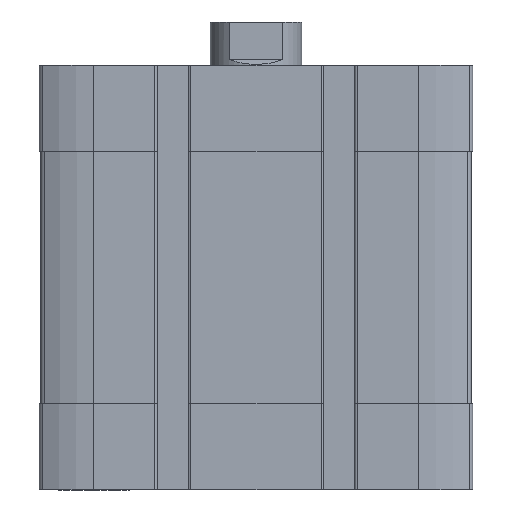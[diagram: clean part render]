
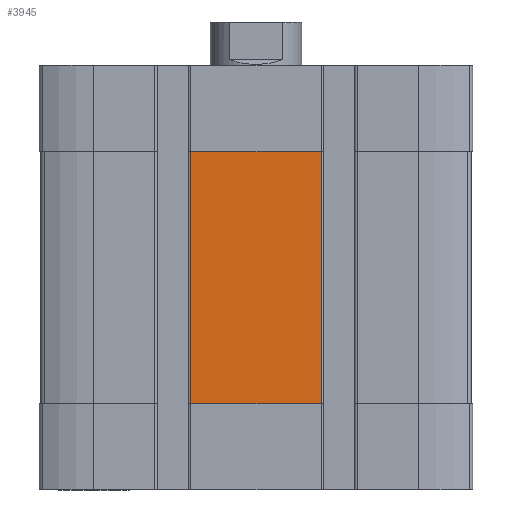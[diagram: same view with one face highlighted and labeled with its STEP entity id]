
A CAD part, front view. The second image highlights one B-rep face of the part: STEP entity #3945.
In plain terms, the highlighted planar face has unit normal (0, -1, 0).
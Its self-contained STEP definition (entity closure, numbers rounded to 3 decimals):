
#307 = ORIENTED_EDGE ( 'NONE', *, *, #11807, .T. ) ;
#697 = DIRECTION ( 'NONE',  ( 0., 0., -1. ) ) ;
#763 = ORIENTED_EDGE ( 'NONE', *, *, #12139, .T. ) ;
#1029 = VECTOR ( 'NONE', #14793, 1000. ) ;
#1366 = CARTESIAN_POINT ( 'NONE',  ( -11.4, -37.5, -59. ) ) ;
#1626 = VECTOR ( 'NONE', #2965, 1000. ) ;
#2327 = VERTEX_POINT ( 'NONE', #11462 ) ;
#2965 = DIRECTION ( 'NONE',  ( 0., 0., -1. ) ) ;
#3183 = LINE ( 'NONE', #4878, #11781 ) ;
#3238 = ORIENTED_EDGE ( 'NONE', *, *, #7067, .T. ) ;
#3261 = PLANE ( 'NONE',  #4406 ) ;
#3945 = ADVANCED_FACE ( 'NONE', ( #4991 ), #3261, .T. ) ;
#4406 = AXIS2_PLACEMENT_3D ( 'NONE', #1366, #11392, #697 ) ;
#4833 = EDGE_CURVE ( 'NONE', #2327, #10361, #13905, .T. ) ;
#4878 = CARTESIAN_POINT ( 'NONE',  ( 11.4, -37.5, -59. ) ) ;
#4991 = FACE_OUTER_BOUND ( 'NONE', #14761, .T. ) ;
#5387 = VECTOR ( 'NONE', #8848, 1000. ) ;
#6365 = CARTESIAN_POINT ( 'NONE',  ( -11.4, -37.5, -15. ) ) ;
#6469 = VERTEX_POINT ( 'NONE', #6619 ) ;
#6524 = CARTESIAN_POINT ( 'NONE',  ( -11.4, -37.5, -59. ) ) ;
#6619 = CARTESIAN_POINT ( 'NONE',  ( -11.4, -37.5, -59. ) ) ;
#7067 = EDGE_CURVE ( 'NONE', #10361, #6469, #12272, .T. ) ;
#7091 = CARTESIAN_POINT ( 'NONE',  ( 11.4, -37.5, -59. ) ) ;
#8446 = LINE ( 'NONE', #6524, #5387 ) ;
#8848 = DIRECTION ( 'NONE',  ( 1., 0., 0. ) ) ;
#9940 = CARTESIAN_POINT ( 'NONE',  ( -11.4, -37.5, -59. ) ) ;
#9975 = ORIENTED_EDGE ( 'NONE', *, *, #4833, .T. ) ;
#10361 = VERTEX_POINT ( 'NONE', #6365 ) ;
#11392 = DIRECTION ( 'NONE',  ( 0., -1., 0. ) ) ;
#11462 = CARTESIAN_POINT ( 'NONE',  ( 11.4, -37.5, -15. ) ) ;
#11733 = VERTEX_POINT ( 'NONE', #7091 ) ;
#11781 = VECTOR ( 'NONE', #15297, 1000. ) ;
#11807 = EDGE_CURVE ( 'NONE', #11733, #2327, #3183, .T. ) ;
#12139 = EDGE_CURVE ( 'NONE', #6469, #11733, #8446, .T. ) ;
#12272 = LINE ( 'NONE', #9940, #1626 ) ;
#13905 = LINE ( 'NONE', #14757, #1029 ) ;
#14757 = CARTESIAN_POINT ( 'NONE',  ( 0., -37.5, -15. ) ) ;
#14761 = EDGE_LOOP ( 'NONE', ( #763, #307, #9975, #3238 ) ) ;
#14793 = DIRECTION ( 'NONE',  ( -1., 0., 0. ) ) ;
#15297 = DIRECTION ( 'NONE',  ( 0., 0., 1. ) ) ;
